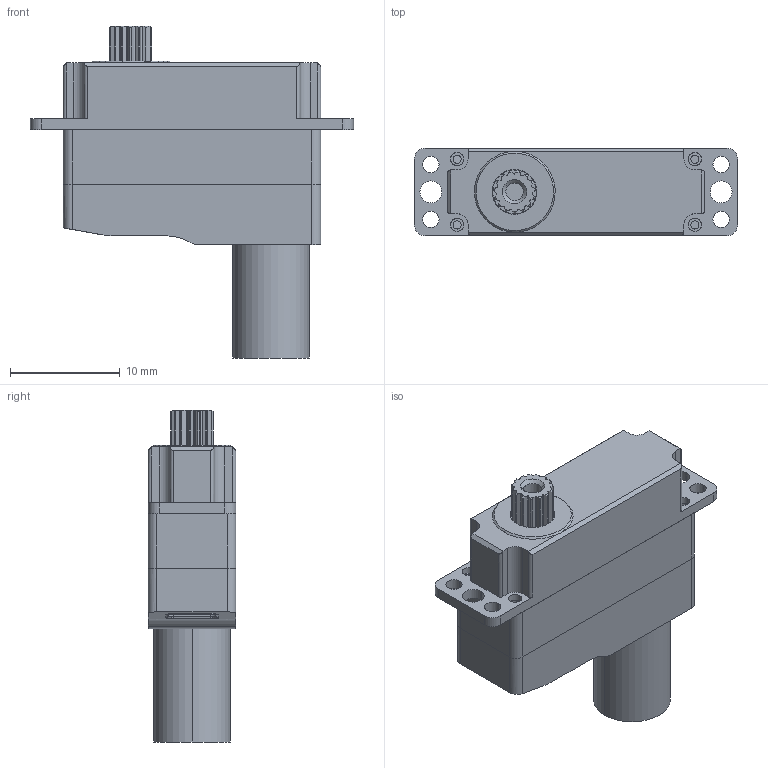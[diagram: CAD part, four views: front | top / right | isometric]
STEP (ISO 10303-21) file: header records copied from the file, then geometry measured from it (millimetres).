
FILE_DESCRIPTION (( 'STEP AP214' ), '1' );
FILE_NAME ('X08 Plus-3.2_DM_20231028.STEP', '2023-10-28T06:16:10', ( '' ), ( '' ), 'SwSTEP 2.0', 'SolidWorks 2016', '' );
FILE_SCHEMA (( 'AUTOMOTIVE_DESIGN' ));
Length unit declared in the file: millimetre
Products named in the file (1): X08 Plus-3.2_DM_20231028
Bounding box: 29.5 x 8 x 30.3 mm (x, y, z)
Surface area: 2702.8 mm2 (no closed solid volume)
Topology: 0 solids, 9 shells, 233 faces, 751 edges, 518 vertices
Faces by surface type: cylinder 124, plane 84, cone 19, bspline 6
Entity records: 11223 total; most frequent: CARTESIAN_POINT 1992, DIRECTION 1417, ORIENTED_EDGE 1324, EDGE_CURVE 751, VERTEX_POINT 518, AXIS2_PLACEMENT_3D 511, LINE 395, VECTOR 395
